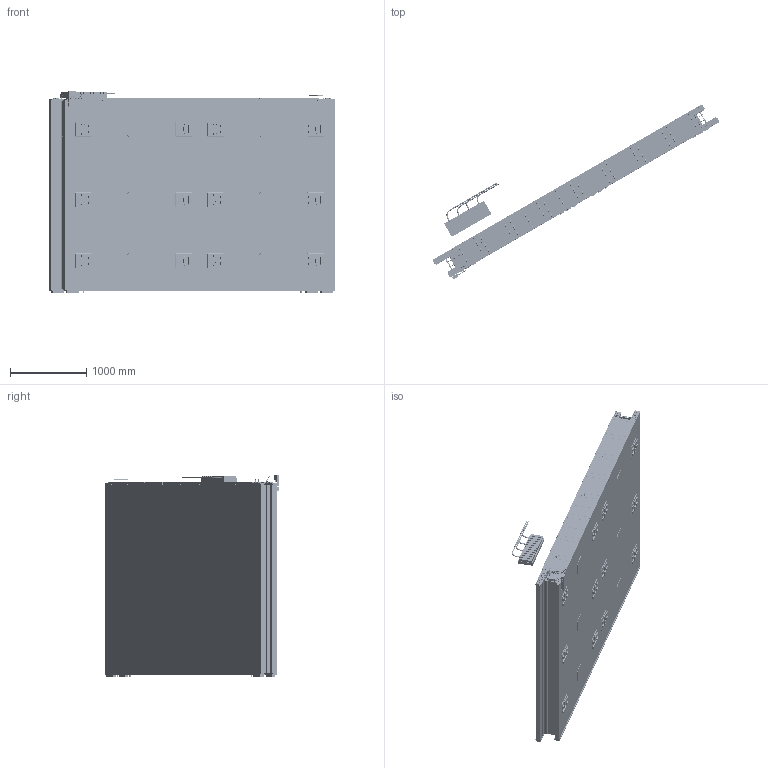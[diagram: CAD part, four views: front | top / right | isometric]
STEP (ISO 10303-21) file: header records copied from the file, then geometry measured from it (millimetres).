
FILE_DESCRIPTION(/* description */ (''),/* implementation_level */ '2;1');
FILE_NAME(/* name */ '040209_mb45_2_4_5_sx_phi_L_carters.stp',/* time_stamp */ '2022-04-13T14:33:58+02:00',/* author */ (''),/* organization */ (''),/* preprocessor_version */ 'ST-DEVELOPER v18.1',/* originating_system */ 'SIEMENS PLM Software NX 1992',/* authorisation */ '');
FILE_SCHEMA (('AUTOMOTIVE_DESIGN { 1 0 10303 214 3 1 1 1 }'));
Products named in the file (1): zago2B10850Da08n
Bounding box: 3752.13 x 2290.86 x 2646.02 mm (x, y, z)
Volume: 2867910493.4 mm3; surface area: 341377282.1 mm2
Topology: 341 solids, 341 shells, 12311 faces, 32563 edges, 20945 vertices
Faces by surface type: plane 7324, cylinder 3959, cone 852, bspline 88, torus 64, sphere 24
Full cylindrical faces by diameter (mm): 1 x244, 1.675 x8, 2.594 x36, 3 x48, 3.2 x8, 3.25 x2, 3.3 x24, 3.432 x481, 3.5 x38, 3.778 x7, 4 x34, 4.351 x4, 4.5 x4, 4.8 x34, 5 x58, 5.188 x48, 5.5 x292, 6 x24, 6.4 x47, 6.5 x1, 7 x2, 7.5 x48, 8 x39, 8.6 x4, 8.782 x4, 8.8 x10, 8.933 x16, 8.985 x24, 9.061 x2, 9.391 x72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
Entity records: 402455 total; most frequent: CARTESIAN_POINT 97467, DIRECTION 58756, ORIENTED_EDGE 56558, EDGE_CURVE 28279, AXIS2_PLACEMENT_3D 20038, VERTEX_POINT 19721, LINE 18680, VECTOR 18680
